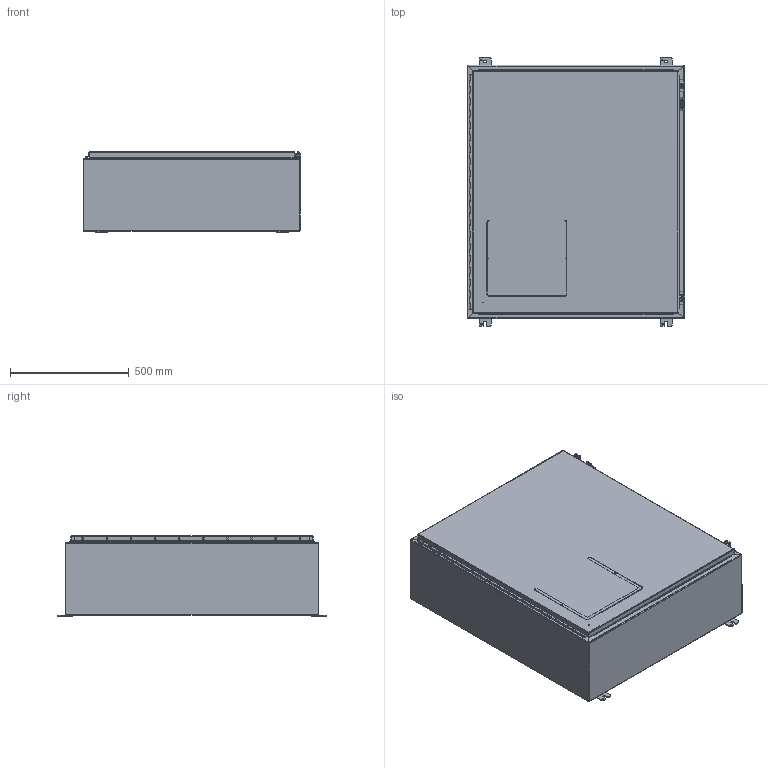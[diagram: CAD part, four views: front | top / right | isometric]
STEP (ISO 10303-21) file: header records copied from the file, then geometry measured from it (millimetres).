
FILE_DESCRIPTION (( 'STEP AP203' ), '1' );
FILE_NAME ('a423612lp.STEP', '2010-08-25T16:04:16', ( 'Hoffman User' ), ( 'Hoffman Enclosures' ), 'SwSTEP 2.0', 'SolidWorks 2009', '' );
FILE_SCHEMA (( 'CONFIG_CONTROL_DESIGN' ));
Products named in the file (23): 22118307; 22110001; 22132003; 22118007; 99411210_Config-Drawing; 22107001; 22101001; 87560041; 89043061_DOOR CLOSED; a423612lp; 22362051; 22285023_default; 22118707_22118701; 22230001; 22112001_AFTER WELD; 89042962; 22351014; 87931362_87931362; 23418001; 87932903; 91307100; 22104006_SL-HHMS 0.25-28x0.875x0.875-N; 22103001_Free
Assembly tree (38 placements, depth 4):
  a423612lp
    89043061_DOOR CLOSED
      22112001_AFTER WELD  x8
      22285023_default  x2
      22110001  x4
      22132003
      22230001  x2
      22118307
      22362051
      89042962
        22107001
        99411210_Config-Drawing
        22351014
        87931362_87931362  x2
        22118007
      22118707_22118701
    91307100  x2
      22101001
      87560041
      22104006_SL-HHMS 0.25-28x0.875x0.875-N
      22103001_Free
    87932903  x2
    23418001
Bounding box: 917.91 x 1130.3 x 337.96 mm (x, y, z)
Volume: 6558349.1 mm3; surface area: 7124474 mm2
Topology: 39 solids, 39 shells, 3495 faces, 9208 edges, 5940 vertices
Faces by surface type: plane 1637, bspline 1171, cylinder 533, torus 94, cone 56, sphere 4
Entity records: 153284 total; most frequent: CARTESIAN_POINT 87632, ORIENTED_EDGE 14854, DIRECTION 9667, EDGE_CURVE 7427, VERTEX_POINT 4844, VECTOR 4709, LINE 4709, EDGE_LOOP 2927
